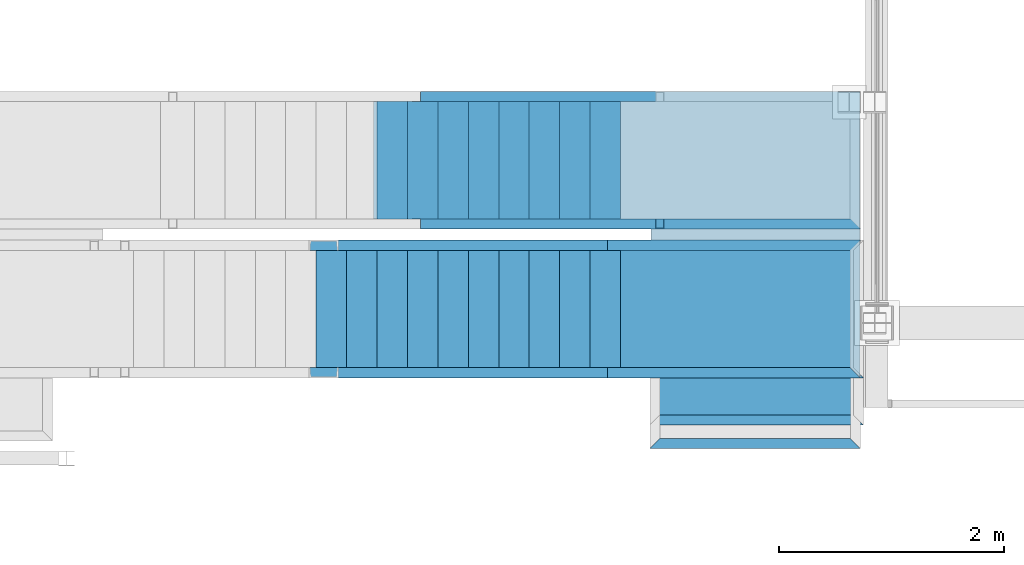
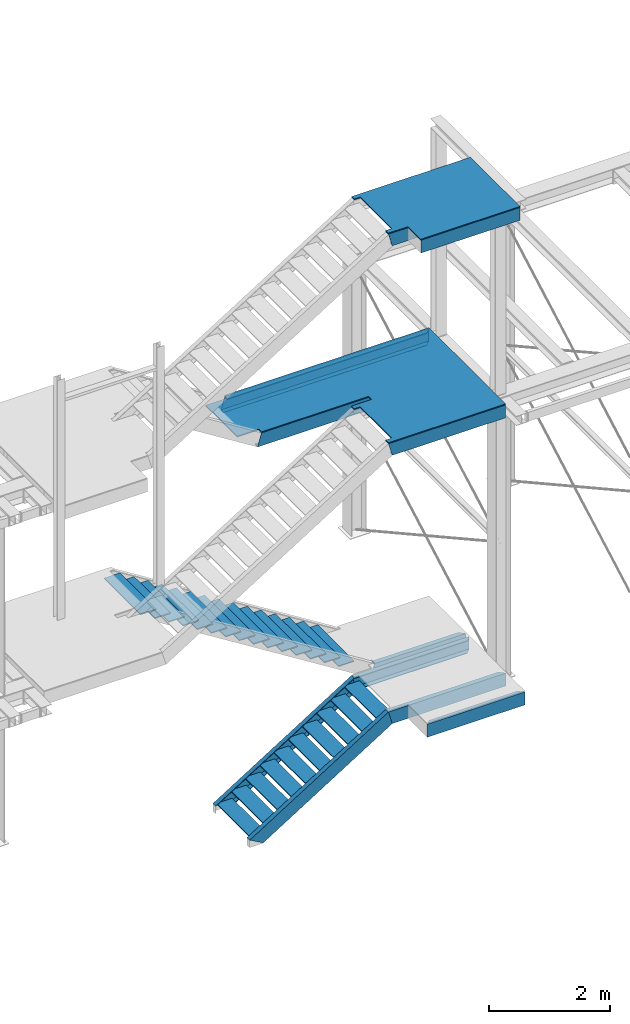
# One storey, part 23 of 24: 15 stairs.
"""IFC2X3 building model written with IfcOpenShell, lengths in metres."""

from ifc_helpers import new_model, entity, si_unit, converted_unit, derived_unit, frame, origin, place, context, subcontext, project, spatial, faceted_brep, material, element, save


model = new_model("IFC2X3")

# Units and contexts
model_context = context("Model", 3, precision=1e-05, world=origin())
body_context = subcontext(model_context, "Body", "Model", "MODEL_VIEW")
ifc_project = project(units=[si_unit("LENGTHUNIT", "METRE"), si_unit("AREAUNIT", "SQUARE_METRE"), si_unit("VOLUMEUNIT", "CUBIC_METRE"), si_unit("MASSUNIT", "GRAM", prefix="KILO"), converted_unit("PLANEANGLEUNIT", "DEGREE", entity("IfcPlaneAngleMeasure", 0.0174532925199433), si_unit("PLANEANGLEUNIT", "RADIAN"), dimensions=[0, 0, 0, 0, 0, 0, 0]), derived_unit("THERMALTRANSMITTANCEUNIT", [(si_unit("POWERUNIT", "WATT"), 1), (si_unit("THERMODYNAMICTEMPERATUREUNIT", "KELVIN"), -1), (si_unit("LENGTHUNIT", "METRE"), -2)]), derived_unit("VOLUMETRICFLOWRATEUNIT", [(si_unit("LENGTHUNIT", "METRE"), 3), (converted_unit("TIMEUNIT", "hour", entity("IfcTimeMeasure", 3600.0), si_unit("TIMEUNIT", "SECOND"), dimensions=[0, 0, 1, 0, 0, 0, 0]), -1), (si_unit("LENGTHUNIT", "METRE"), -1)])], contexts=[model_context])

# Site, building, storey
site_placement = place(None, origin())
site = spatial("IfcSite", under=ifc_project, at=site_placement, Name="TWP_Speiseverteilzentrum SBW VZ II", CompositionType="ELEMENT")
building_placement = place(site_placement, origin())
building = spatial("IfcBuilding", under=site, at=building_placement, Name="Speiseverteilzentrum SBW VZ II", CompositionType="ELEMENT")
storey_placement = place(building_placement, frame((0.0, 0.0, 0.6957)))
storey = spatial("IfcBuildingStorey", under=building, at=storey_placement, Name="EG_Technik_FFB", CompositionType="ELEMENT", Elevation=0.6957)

# Stairs
ifc_material_1 = material(Name="Stahl")
stair_1_placement = place(storey_placement, frame((67.6487049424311, 86.3610000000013, 0.751093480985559)))
element("IfcStair", 1, at=stair_1_placement, inside=storey, material=ifc_material_1, Name="Stahltreppe", ShapeType="NOTDEFINED", context=body_context, shape_type="Brep", body=[
    faceted_brep([(0.0900000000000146, 0.09, 0.0107981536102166), (0.010001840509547, 0.010001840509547, 0.0171998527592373), (0.0100000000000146, 0.01, 0.242798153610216), (0.089998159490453, 0.0899981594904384, 0.249199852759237), (0.0900000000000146, 0.09, 0.26), (0.0, 0.0, 0.26), (0.0, 0.0, 0.0), (0.0900000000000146, 0.09, 0.0), (1.78000000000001, 0.09, 0.0), (1.87, 0.0, 0.0), (1.87, 0.0, 0.26), (1.78000000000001, 0.09, 0.26), (1.78000184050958, 0.0899981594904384, 0.249199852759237), (1.86, 0.01, 0.242798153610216), (1.85999815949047, 0.010001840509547, 0.0171998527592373), (1.78000000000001, 0.09, 0.0107981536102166)], [[[0, 1, 2, 3, 4, 5, 6, 7]], [[8, 9, 10, 11, 12, 13, 14, 15]], [[7, 8, 15, 0]], [[6, 9, 8, 7]], [[5, 10, 9, 6]], [[4, 11, 10, 5]], [[3, 12, 11, 4]], [[2, 13, 12, 3]], [[1, 14, 13, 2]], [[0, 15, 14, 1]]], orient=[[False], [False], [False], [False], [False], [False], [False], [False], [False], [False]]),
])
ifc_material_2 = material(Name="Stahl")
stair_2_placement = place(storey_placement, frame((67.698288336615, 88.3099999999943, 0.751093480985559)))
element("IfcStair", 2, at=stair_2_placement, inside=storey, material=ifc_material_2, Name="Stahltreppe", ShapeType="NOTDEFINED", context=body_context, shape_type="Brep", body=[
    faceted_brep([(1.82041660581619, 0.0, 0.0), (1.82041660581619, 0.0, 0.26), (1.73041660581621, 0.09, 0.26), (1.73041844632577, 0.0899981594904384, 0.249199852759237), (1.81041660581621, 0.01, 0.242798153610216), (1.81041476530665, 0.010001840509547, 0.0171998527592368), (1.73041660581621, 0.09, 0.0107981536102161), (1.73041660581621, 0.09, 0.0), (0.00310374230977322, 0.09, 0.0107981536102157), (0.0, 0.09, 0.0), (0.0, 0.0, 0.0), (0.0747324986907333, 0.0, 0.26), (0.0747324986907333, 0.09, 0.26), (0.0716281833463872, 0.0899981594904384, 0.249199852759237), (0.0697881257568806, 0.01, 0.242798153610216), (0.00494379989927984, 0.010001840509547, 0.0171998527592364)], [[[0, 1, 2, 3, 4, 5, 6, 7]], [[6, 8, 9, 7]], [[7, 9, 10, 0]], [[11, 1, 0, 10]], [[1, 11, 12, 2]], [[2, 12, 13, 3]], [[3, 13, 14, 4]], [[4, 14, 15, 5]], [[5, 15, 8, 6]], [[8, 15, 14, 13, 12, 11, 10, 9]]], orient=[[False], [False], [False], [False], [False], [False], [False], [False], [False], [False]]),
])
ifc_material_3 = material(Name="Stahl")
stair_3_placement = place(storey_placement, frame((67.2743890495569, 86.9899999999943, 0.751093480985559)))
element("IfcStair", 3, at=stair_3_placement, inside=storey, material=ifc_material_3, Name="Stahltreppe", ShapeType="NOTDEFINED", context=body_context, shape_type="Brep", body=[
    faceted_brep([(2.15431405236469, 0.09, 0.0), (2.24431405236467, 0.0, 0.0), (2.24431405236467, 0.0, 0.26), (2.15431405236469, 0.09, 0.26), (2.15431589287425, 0.0899981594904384, 0.249199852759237), (2.23431405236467, 0.0100000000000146, 0.242798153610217), (2.23431221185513, 0.010001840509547, 0.0171998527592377), (2.15431405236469, 0.09, 0.010798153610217), (0.0716287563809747, 0.09, 0.0107981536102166), (0.0747324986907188, 0.09, 0.0), (0.0747324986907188, 0.0, 0.0), (0.0, 0.0, 0.26), (0.0, 0.09, 0.26), (0.00310431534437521, 0.0899981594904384, 0.249199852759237), (0.00494437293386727, 0.01, 0.242798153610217), (0.0697886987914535, 0.010001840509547, 0.0171998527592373)], [[[0, 1, 2, 3, 4, 5, 6, 7]], [[7, 8, 9, 0]], [[0, 9, 10, 1]], [[1, 10, 11, 2]], [[2, 11, 12, 3]], [[3, 12, 13, 4]], [[4, 13, 14, 5]], [[5, 14, 15, 6]], [[6, 15, 8, 7]], [[8, 15, 14, 13, 12, 11, 10, 9]]], orient=[[False], [False], [False], [False], [False], [False], [False], [False], [False], [False]]),
])
ifc_material_4 = material(Name="Stahl")
stair_4_placement = place(storey_placement, frame((67.2743890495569, 88.1199999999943, 0.751093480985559)))
element("IfcStair", 4, at=stair_4_placement, inside=storey, material=ifc_material_4, Name="Stahltreppe", ShapeType="NOTDEFINED", context=body_context, shape_type="Brep", body=[
    faceted_brep([(2.1543177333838, 0.0, 0.26), (2.24431589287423, 0.0899981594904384, 0.26), (2.24431589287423, 0.0899981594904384, 0.0), (2.15431773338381, 0.0, 0.0), (2.15431773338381, 0.0, 0.0107981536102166), (2.23431589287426, 0.079998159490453, 0.0171998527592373), (2.23431773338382, 0.08, 0.242798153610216), (2.15431957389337, 1.84050956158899e-06, 0.249199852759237), (0.0747324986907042, 0.0, 0.0), (0.0716287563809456, 0.0, 0.0107981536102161), (0.0747324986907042, 0.09, 0.0), (0.0, 0.09, 0.26), (0.0, 0.0, 0.26), (0.00310431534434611, 1.84050956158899e-06, 0.249199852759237), (0.00494437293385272, 0.08, 0.242798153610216), (0.069788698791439, 0.079998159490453, 0.0171998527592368)], [[[0, 1, 2, 3, 4, 5, 6, 7]], [[3, 8, 9, 4]], [[2, 10, 8, 3]], [[10, 2, 1, 11]], [[0, 12, 11, 1]], [[7, 13, 12, 0]], [[6, 14, 13, 7]], [[5, 15, 14, 6]], [[4, 9, 15, 5]], [[8, 10, 11, 12, 13, 14, 15, 9]]], orient=[[False], [False], [False], [False], [False], [False], [False], [False], [False], [False]]),
])
ifc_material_5 = material(Name="Stahl")
stair_5_placement = place(storey_placement, frame((64.6252469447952, 86.9899999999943, -0.792860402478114)))
element("IfcStair", 5, at=stair_5_placement, inside=storey, material=ifc_material_5, Name="Stahltreppe", ShapeType="NOTDEFINED", context=body_context, shape_type="Brep", body=[
    faceted_brep([(0.242800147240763, 0.0100018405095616, 0.00951976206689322), (0.0172018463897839, 0.01, 0.134383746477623), (0.0108001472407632, 0.0899981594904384, 0.137926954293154), (0.0, 0.09, 0.143904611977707), (0.0, 0.0, 0.143904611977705), (0.26, 0.0, 0.0), (0.26, 0.09, 0.0), (0.249201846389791, 0.09, 0.00597655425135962), (2.72077086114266, 0.09, 1.55475203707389), (2.71893080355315, 0.010001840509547, 1.5611537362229), (2.65408647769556, 0.01, 1.78675203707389), (2.65224642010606, 0.0899981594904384, 1.79315373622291), (2.64914210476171, 0.09, 1.80395388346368), (2.64914210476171, 0.0, 1.80395388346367), (2.72387460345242, 0.0, 1.54395388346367), (2.72387460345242, 0.09, 1.54395388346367)], [[[0, 1, 2, 3, 4, 5, 6, 7]], [[7, 8, 9, 0]], [[0, 9, 10, 1]], [[1, 10, 11, 2]], [[2, 11, 12, 3]], [[3, 12, 13, 4]], [[4, 13, 14, 5]], [[5, 14, 15, 6]], [[6, 15, 8, 7]], [[15, 14, 13, 12, 11, 10, 9, 8]]], orient=[[False], [False], [False], [False], [False], [False], [False], [False], [False], [False]]),
])
ifc_material_6 = material(Name="Stahl")
stair_6_placement = place(storey_placement, frame((64.6252469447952, 88.1199999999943, -0.792860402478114)))
element("IfcStair", 6, at=stair_6_placement, inside=storey, material=ifc_material_6, Name="Stahltreppe", ShapeType="NOTDEFINED", context=body_context, shape_type="Brep", body=[
    faceted_brep([(0.249201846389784, 0.0, 0.00597655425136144), (0.26, 0.0, 0.0), (0.259999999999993, 0.09, 0.0), (0.0, 0.09, 0.143904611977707), (0.0, 0.0, 0.143904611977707), (0.0108001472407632, 1.84050956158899e-06, 0.137926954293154), (0.0172018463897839, 0.08, 0.134383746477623), (0.242800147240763, 0.079998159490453, 0.00951976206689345), (2.71893080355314, 0.079998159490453, 1.56115373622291), (2.72077086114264, 0.0, 1.55475203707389), (2.65408647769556, 0.08, 1.78675203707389), (2.65224642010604, 1.84050956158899e-06, 1.79315373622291), (2.6491421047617, 0.0, 1.80395388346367), (2.6491421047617, 0.09, 1.80395388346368), (2.72387460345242, 0.09, 1.54395388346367), (2.72387460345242, 0.0, 1.54395388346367)], [[[0, 1, 2, 3, 4, 5, 6, 7]], [[7, 8, 9, 0]], [[6, 10, 8, 7]], [[5, 11, 10, 6]], [[4, 12, 11, 5]], [[3, 13, 12, 4]], [[2, 14, 13, 3]], [[1, 15, 14, 2]], [[0, 9, 15, 1]], [[9, 8, 10, 11, 12, 13, 14, 15]]], orient=[[False], [False], [False], [False], [False], [False], [False], [False], [False], [False]]),
])
ifc_material_7 = material(Name="Stahl")
stair_7_placement = place(storey_placement, frame((65.5382883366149, 88.3099999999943, 6.16523328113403)))
element("IfcStair", 7, at=stair_7_placement, inside=storey, material=ifc_material_7, Name="Stahltreppe", ShapeType="NOTDEFINED", context=body_context, shape_type="Brep", body=[
    faceted_brep([(3.97541485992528, 0.0, 0.0), (3.97541485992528, 0.0, 0.26), (3.88541485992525, 0.09, 0.26), (3.88541670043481, 0.0899981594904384, 0.249199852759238), (3.96541485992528, 0.01, 0.242798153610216), (3.96541301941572, 0.010001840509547, 0.0171998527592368), (3.88541485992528, 0.09, 0.0107981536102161), (3.88541485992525, 0.09, 0.0), (0.00310374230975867, 0.09, 0.0107981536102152), (0.0, 0.09, 0.0), (0.0, 0.0, 0.0), (0.0747324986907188, 0.0, 0.26), (0.0747324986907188, 0.09, 0.26), (0.0716281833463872, 0.0899981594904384, 0.249199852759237), (0.0697881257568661, 0.01, 0.242798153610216), (0.00494379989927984, 0.010001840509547, 0.0171998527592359)], [[[0, 1, 2, 3, 4, 5, 6, 7]], [[6, 8, 9, 7]], [[7, 9, 10, 0]], [[11, 1, 0, 10]], [[1, 11, 12, 2]], [[2, 12, 13, 3]], [[3, 13, 14, 4]], [[4, 14, 15, 5]], [[5, 15, 8, 6]], [[8, 15, 14, 13, 12, 11, 10, 9]]], orient=[[False], [False], [False], [False], [False], [False], [False], [False], [False], [False]]),
])
ifc_material_8 = material(Name="Stahl")
stair_8_placement = place(storey_placement, frame((65.5382883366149, 89.4399999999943, 6.16523328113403)))
element("IfcStair", 8, at=stair_8_placement, inside=storey, material=ifc_material_8, Name="Stahltreppe", ShapeType="NOTDEFINED", context=body_context, shape_type="Brep", body=[
    faceted_brep([(3.88541485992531, 0.0, 0.0), (3.88541485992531, 0.0, 0.0107981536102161), (3.96541301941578, 0.079998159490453, 0.0171998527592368), (3.96541485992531, 0.08, 0.242798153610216), (3.88541670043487, 1.84050956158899e-06, 0.249199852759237), (3.88541485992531, 0.0, 0.26), (3.97541485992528, 0.09, 0.26), (3.97541485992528, 0.09, 0.0), (0.0, 0.0, 0.0), (0.00310374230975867, 0.0, 0.0107981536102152), (0.0, 0.09, 0.0), (0.0747324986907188, 0.09, 0.26), (0.0747324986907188, 0.0, 0.26), (0.0716281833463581, 1.84050956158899e-06, 0.249199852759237), (0.0697881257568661, 0.08, 0.242798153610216), (0.00494379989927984, 0.079998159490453, 0.0171998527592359)], [[[0, 1, 2, 3, 4, 5, 6, 7]], [[0, 8, 9, 1]], [[7, 10, 8, 0]], [[10, 7, 6, 11]], [[5, 12, 11, 6]], [[4, 13, 12, 5]], [[3, 14, 13, 4]], [[2, 15, 14, 3]], [[1, 9, 15, 2]], [[8, 10, 11, 12, 13, 14, 15, 9]]], orient=[[False], [False], [False], [False], [False], [False], [False], [False], [False], [False]]),
])
ifc_material_9 = material(Name="Stahl")
stair_9_placement = place(storey_placement, frame((67.2743890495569, 86.9899999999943, 6.16523328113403)))
element("IfcStair", 9, at=stair_9_placement, inside=storey, material=ifc_material_9, Name="Stahltreppe", ShapeType="NOTDEFINED", context=body_context, shape_type="Brep", body=[
    faceted_brep([(2.23931414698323, 0.0, 0.0), (2.23931414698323, 0.0, 0.26), (2.1493141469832, 0.09, 0.26), (2.14931598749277, 0.0899981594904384, 0.249199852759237), (2.22931414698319, 0.0100000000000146, 0.242798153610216), (2.22931230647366, 0.010001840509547, 0.0171998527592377), (2.1493141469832, 0.09, 0.010798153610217), (2.1493141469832, 0.09, 0.0), (0.071628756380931, 0.09, 0.0107981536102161), (0.0747324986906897, 0.09, 0.0), (0.0747324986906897, 0.0, 0.0), (0.0, 0.0, 0.26), (0.0, 0.09, 0.26), (0.00310431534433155, 0.0899981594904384, 0.249199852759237), (0.00494437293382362, 0.01, 0.242798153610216), (0.0697886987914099, 0.010001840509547, 0.0171998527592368)], [[[0, 1, 2, 3, 4, 5, 6, 7]], [[6, 8, 9, 7]], [[7, 9, 10, 0]], [[11, 1, 0, 10]], [[1, 11, 12, 2]], [[2, 12, 13, 3]], [[3, 13, 14, 4]], [[4, 14, 15, 5]], [[5, 15, 8, 6]], [[8, 15, 14, 13, 12, 11, 10, 9]]], orient=[[False], [False], [False], [False], [False], [False], [False], [False], [False], [False]]),
])
ifc_material_10 = material(Name="Stahl")
stair_10_placement = place(storey_placement, frame((67.6487049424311, 86.5699999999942, 10.39503)))
element("IfcStair", 10, at=stair_10_placement, inside=storey, material=ifc_material_10, Name="Stahltreppe", ShapeType="NOTDEFINED", context=body_context, shape_type="Brep", body=[
    faceted_brep([(1.80499825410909, 0.09, 0.26), (1.80500009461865, 0.0899981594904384, 0.249199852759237), (1.88499825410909, 0.01, 0.242798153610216), (1.88499641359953, 0.0100018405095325, 0.0171998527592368), (1.80499825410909, 0.09, 0.0107981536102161), (1.80499825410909, 0.09, 0.0), (1.89499825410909, 0.0, 0.0), (1.89499825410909, 0.0, 0.26), (0.0100018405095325, 0.010001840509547, 0.0171998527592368), (0.09, 0.09, 0.0107981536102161), (0.0099999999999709, 0.01, 0.242798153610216), (0.0899981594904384, 0.0899981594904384, 0.249199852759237), (0.09, 0.09, 0.26), (0.0, 0.0, 0.26), (0.0, 0.0, 0.0), (0.09, 0.09, 0.0)], [[[0, 1, 2, 3, 4, 5, 6, 7]], [[3, 8, 9, 4]], [[2, 10, 8, 3]], [[1, 11, 10, 2]], [[0, 12, 11, 1]], [[7, 13, 12, 0]], [[13, 7, 6, 14]], [[5, 15, 14, 6]], [[4, 9, 15, 5]], [[9, 8, 10, 11, 12, 13, 14, 15]]], orient=[[False], [False], [False], [False], [False], [False], [False], [False], [False], [False]]),
])
ifc_material_11 = material(Name="Stahl")
stair_11_placement = place(storey_placement, frame((67.2743890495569, 86.9899999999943, 10.39503)))
element("IfcStair", 11, at=stair_11_placement, inside=storey, material=ifc_material_11, Name="Stahltreppe", ShapeType="NOTDEFINED", context=body_context, shape_type="Brep", body=[
    faceted_brep([(2.26931414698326, 0.0, 0.0), (2.26931414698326, 0.0, 0.26), (2.17931414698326, 0.09, 0.26), (2.17931598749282, 0.0899981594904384, 0.249199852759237), (2.25931414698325, 0.01, 0.242798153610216), (2.25931230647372, 0.010001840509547, 0.0171998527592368), (2.17931414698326, 0.09, 0.0107981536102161), (2.17931414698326, 0.09, 0.0), (0.0716287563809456, 0.09, 0.0107981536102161), (0.0747324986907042, 0.09, 0.0), (0.0747324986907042, 0.0, 0.0), (0.0, 0.0, 0.26), (0.0, 0.09, 0.26), (0.00310431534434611, 0.0899981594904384, 0.249199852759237), (0.00494437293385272, 0.01, 0.242798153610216), (0.0697886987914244, 0.010001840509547, 0.0171998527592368)], [[[0, 1, 2, 3, 4, 5, 6, 7]], [[6, 8, 9, 7]], [[7, 9, 10, 0]], [[11, 1, 0, 10]], [[1, 11, 12, 2]], [[2, 12, 13, 3]], [[3, 13, 14, 4]], [[4, 14, 15, 5]], [[5, 15, 8, 6]], [[8, 15, 14, 13, 12, 11, 10, 9]]], orient=[[False], [False], [False], [False], [False], [False], [False], [False], [False], [False]]),
])
ifc_material_12 = material(Name="Stahl")
stair_12_placement = place(storey_placement, frame((64.6887049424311, 86.9999999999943, -0.680825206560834)))
element("IfcStair", 12, at=stair_12_placement, inside=storey, material=ifc_material_12, Name="Stahltreppe", ShapeType="NOTDEFINED", context=body_context, shape_type="Brep", body=[
    faceted_brep([(2.73000000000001, 1.2, 1.52272681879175), (2.73000000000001, 0.0, 1.52272681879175), (2.73000000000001, 0.0, 1.54272681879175), (2.73000000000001, 1.2, 1.54272681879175), (2.43000000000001, 0.0, 1.52272681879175), (2.43000000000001, 0.0, 1.54272681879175), (2.43000000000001, 1.2, 1.52272681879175), (2.43000000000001, 1.2, 1.54272681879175)], [[[0, 1, 2, 3]], [[1, 4, 5, 2]], [[4, 6, 7, 5]], [[6, 0, 3, 7]], [[3, 2, 5, 7]], [[0, 6, 4, 1]]], orient=[[False], [False], [False], [False], [False], [False]]),
    faceted_brep([(2.46000000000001, 1.2, 1.35353495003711), (2.46000000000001, 0.0, 1.35353495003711), (2.46000000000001, 0.0, 1.37353495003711), (2.46000000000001, 1.2, 1.37353495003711), (2.16000000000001, 0.0, 1.35353495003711), (2.16000000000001, 0.0, 1.37353495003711), (2.16000000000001, 1.2, 1.35353495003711), (2.16000000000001, 1.2, 1.37353495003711)], [[[0, 1, 2, 3]], [[1, 4, 5, 2]], [[4, 6, 7, 5]], [[6, 0, 3, 7]], [[3, 2, 5, 7]], [[0, 6, 4, 1]]], orient=[[False], [False], [False], [False], [False], [False]]),
    faceted_brep([(2.19000000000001, 1.2, 1.18434308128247), (2.19000000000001, 0.0, 1.18434308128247), (2.19000000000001, 0.0, 1.20434308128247), (2.19000000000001, 1.2, 1.20434308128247), (1.89000000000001, 0.0, 1.18434308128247), (1.89000000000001, 0.0, 1.20434308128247), (1.89000000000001, 1.2, 1.18434308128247), (1.89000000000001, 1.2, 1.20434308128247)], [[[0, 1, 2, 3]], [[1, 4, 5, 2]], [[4, 6, 7, 5]], [[6, 0, 3, 7]], [[3, 2, 5, 7]], [[0, 6, 4, 1]]], orient=[[False], [False], [False], [False], [False], [False]]),
    faceted_brep([(1.91999999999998, 1.2, 1.01515121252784), (1.91999999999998, 0.0, 1.01515121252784), (1.91999999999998, 0.0, 1.03515121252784), (1.91999999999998, 1.2, 1.03515121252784), (1.61999999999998, 0.0, 1.01515121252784), (1.61999999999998, 0.0, 1.03515121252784), (1.61999999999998, 1.2, 1.01515121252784), (1.61999999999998, 1.2, 1.03515121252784)], [[[0, 1, 2, 3]], [[1, 4, 5, 2]], [[4, 6, 7, 5]], [[6, 0, 3, 7]], [[3, 2, 5, 7]], [[0, 6, 4, 1]]], orient=[[False], [False], [False], [False], [False], [False]]),
    faceted_brep([(1.65000000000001, 1.2, 0.845959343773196), (1.65000000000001, 0.0, 0.845959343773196), (1.65000000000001, 0.0, 0.865959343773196), (1.65000000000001, 1.2, 0.865959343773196), (1.35000000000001, 0.0, 0.845959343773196), (1.35000000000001, 0.0, 0.865959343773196), (1.35000000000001, 1.2, 0.845959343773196), (1.35000000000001, 1.2, 0.865959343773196)], [[[0, 1, 2, 3]], [[1, 4, 5, 2]], [[4, 6, 7, 5]], [[6, 0, 3, 7]], [[3, 2, 5, 7]], [[0, 6, 4, 1]]], orient=[[False], [False], [False], [False], [False], [False]]),
    faceted_brep([(1.38000000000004, 1.2, 0.676767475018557), (1.38000000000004, 0.0, 0.676767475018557), (1.38000000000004, 0.0, 0.696767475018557), (1.38000000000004, 1.2, 0.696767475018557), (1.08000000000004, 0.0, 0.676767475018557), (1.08000000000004, 0.0, 0.696767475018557), (1.08000000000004, 1.2, 0.676767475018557), (1.08000000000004, 1.2, 0.696767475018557)], [[[0, 1, 2, 3]], [[1, 4, 5, 2]], [[4, 6, 7, 5]], [[6, 0, 3, 7]], [[3, 2, 5, 7]], [[0, 6, 4, 1]]], orient=[[False], [False], [False], [False], [False], [False]]),
    faceted_brep([(1.10999999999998, 1.20000000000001, 0.507575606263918), (1.10999999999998, 0.0, 0.507575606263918), (1.10999999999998, 0.0, 0.527575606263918), (1.10999999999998, 1.20000000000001, 0.527575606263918), (0.809999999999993, 0.0, 0.507575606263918), (0.809999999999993, 0.0, 0.527575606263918), (0.809999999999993, 1.20000000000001, 0.507575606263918), (0.809999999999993, 1.20000000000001, 0.527575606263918)], [[[0, 1, 2, 3]], [[1, 4, 5, 2]], [[4, 6, 7, 5]], [[6, 0, 3, 7]], [[3, 2, 5, 7]], [[0, 6, 4, 1]]], orient=[[False], [False], [False], [False], [False], [False]]),
    faceted_brep([(0.84, 1.20000000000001, 0.338383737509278), (0.84, 0.0, 0.338383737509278), (0.84, 0.0, 0.358383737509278), (0.84, 1.20000000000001, 0.358383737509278), (0.539999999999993, 0.0, 0.338383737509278), (0.539999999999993, 0.0, 0.358383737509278), (0.539999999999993, 1.20000000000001, 0.338383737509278), (0.539999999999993, 1.20000000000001, 0.358383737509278)], [[[0, 1, 2, 3]], [[1, 4, 5, 2]], [[4, 6, 7, 5]], [[6, 0, 3, 7]], [[3, 2, 5, 7]], [[0, 6, 4, 1]]], orient=[[False], [False], [False], [False], [False], [False]]),
    faceted_brep([(0.570000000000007, 1.20000000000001, 0.169191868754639), (0.570000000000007, 0.0, 0.169191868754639), (0.570000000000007, 0.0, 0.189191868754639), (0.570000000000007, 1.20000000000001, 0.189191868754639), (0.270000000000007, 0.0, 0.169191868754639), (0.270000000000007, 0.0, 0.189191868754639), (0.270000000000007, 1.20000000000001, 0.169191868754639), (0.270000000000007, 1.20000000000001, 0.189191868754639)], [[[0, 1, 2, 3]], [[1, 4, 5, 2]], [[4, 6, 7, 5]], [[6, 0, 3, 7]], [[3, 2, 5, 7]], [[0, 6, 4, 1]]], orient=[[False], [False], [False], [False], [False], [False]]),
    faceted_brep([(0.299999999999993, 1.20000000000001, 0.0), (0.299999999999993, 0.0, 0.0), (0.299999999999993, 0.0, 0.0199999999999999), (0.299999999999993, 1.20000000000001, 0.0199999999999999), (0.0, 0.0, 0.0), (0.0, 0.0, 0.0199999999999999), (0.0, 1.20000000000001, 0.0), (0.0, 1.20000000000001, 0.0199999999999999)], [[[0, 1, 2, 3]], [[1, 4, 5, 2]], [[4, 6, 7, 5]], [[6, 0, 3, 7]], [[3, 2, 5, 7]], [[0, 6, 4, 1]]], orient=[[False], [False], [False], [False], [False], [False]]),
])
ifc_material_13 = material(Name="Stahl")
stair_13_placement = place(storey_placement, frame((63.3087049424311, 88.3199999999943, 1.1802853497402)))
element("IfcStair", 13, at=stair_13_placement, inside=storey, material=ifc_material_13, Name="Stahltreppe", ShapeType="NOTDEFINED", context=body_context, shape_type="Brep", body=[
    faceted_brep([(0.0, 0.0, 2.36868616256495), (0.0, 1.20000000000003, 2.36868616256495), (0.0, 1.20000000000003, 2.38868616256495), (0.0, 0.0, 2.38868616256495), (0.3, 1.20000000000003, 2.36868616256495), (0.3, 1.20000000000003, 2.38868616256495), (0.3, 0.0, 2.36868616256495), (0.3, 0.0, 2.38868616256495)], [[[0, 1, 2, 3]], [[1, 4, 5, 2]], [[4, 6, 7, 5]], [[6, 0, 3, 7]], [[3, 2, 5, 7]], [[0, 6, 4, 1]]], orient=[[False], [False], [False], [False], [False], [False]]),
    faceted_brep([(0.270000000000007, 0.0, 2.19949429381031), (0.270000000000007, 1.20000000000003, 2.19949429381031), (0.270000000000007, 1.20000000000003, 2.21949429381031), (0.270000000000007, 0.0, 2.21949429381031), (0.570000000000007, 1.20000000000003, 2.19949429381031), (0.570000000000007, 1.20000000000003, 2.21949429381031), (0.570000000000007, 0.0, 2.19949429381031), (0.570000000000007, 0.0, 2.21949429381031)], [[[0, 1, 2, 3]], [[1, 4, 5, 2]], [[4, 6, 7, 5]], [[6, 0, 3, 7]], [[3, 2, 5, 7]], [[0, 6, 4, 1]]], orient=[[False], [False], [False], [False], [False], [False]]),
    faceted_brep([(0.540000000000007, 0.0, 2.03030242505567), (0.540000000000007, 1.20000000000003, 2.03030242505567), (0.540000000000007, 1.20000000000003, 2.05030242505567), (0.540000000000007, 0.0, 2.05030242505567), (0.840000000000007, 1.20000000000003, 2.03030242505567), (0.840000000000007, 1.20000000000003, 2.05030242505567), (0.840000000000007, 0.0, 2.03030242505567), (0.840000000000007, 0.0, 2.05030242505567)], [[[0, 1, 2, 3]], [[1, 4, 5, 2]], [[4, 6, 7, 5]], [[6, 0, 3, 7]], [[3, 2, 5, 7]], [[0, 6, 4, 1]]], orient=[[False], [False], [False], [False], [False], [False]]),
    faceted_brep([(0.81, 0.0, 1.86111055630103), (0.81, 1.20000000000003, 1.86111055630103), (0.81, 1.20000000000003, 1.88111055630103), (0.81, 0.0, 1.88111055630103), (1.11, 1.20000000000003, 1.86111055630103), (1.11, 1.20000000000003, 1.88111055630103), (1.11, 0.0, 1.86111055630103), (1.11, 0.0, 1.88111055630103)], [[[0, 1, 2, 3]], [[1, 4, 5, 2]], [[4, 6, 7, 5]], [[6, 0, 3, 7]], [[3, 2, 5, 7]], [[0, 6, 4, 1]]], orient=[[False], [False], [False], [False], [False], [False]]),
    faceted_brep([(1.08000000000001, 0.0, 1.69191868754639), (1.08000000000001, 1.20000000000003, 1.69191868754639), (1.08000000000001, 1.20000000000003, 1.71191868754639), (1.08000000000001, 0.0, 1.71191868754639), (1.38000000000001, 1.20000000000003, 1.69191868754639), (1.38000000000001, 1.20000000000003, 1.71191868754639), (1.38000000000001, 0.0, 1.69191868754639), (1.38000000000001, 0.0, 1.71191868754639)], [[[0, 1, 2, 3]], [[1, 4, 5, 2]], [[4, 6, 7, 5]], [[6, 0, 3, 7]], [[3, 2, 5, 7]], [[0, 6, 4, 1]]], orient=[[False], [False], [False], [False], [False], [False]]),
    faceted_brep([(1.35, 0.0, 1.52272681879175), (1.35, 1.20000000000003, 1.52272681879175), (1.35, 1.20000000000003, 1.54272681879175), (1.35, 0.0, 1.54272681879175), (1.65, 1.20000000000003, 1.52272681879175), (1.65, 1.20000000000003, 1.54272681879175), (1.65, 0.0, 1.52272681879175), (1.65, 0.0, 1.54272681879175)], [[[0, 1, 2, 3]], [[1, 4, 5, 2]], [[4, 6, 7, 5]], [[6, 0, 3, 7]], [[3, 2, 5, 7]], [[0, 6, 4, 1]]], orient=[[False], [False], [False], [False], [False], [False]]),
    faceted_brep([(1.62, 0.0, 1.35353495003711), (1.62, 1.20000000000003, 1.35353495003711), (1.62, 1.20000000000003, 1.37353495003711), (1.62, 0.0, 1.37353495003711), (1.92, 1.20000000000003, 1.35353495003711), (1.92, 1.20000000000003, 1.37353495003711), (1.92, 0.0, 1.35353495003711), (1.92, 0.0, 1.37353495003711)], [[[0, 1, 2, 3]], [[1, 4, 5, 2]], [[4, 6, 7, 5]], [[6, 0, 3, 7]], [[3, 2, 5, 7]], [[0, 6, 4, 1]]], orient=[[False], [False], [False], [False], [False], [False]]),
    faceted_brep([(1.88999999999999, 0.0, 1.18434308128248), (1.88999999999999, 1.20000000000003, 1.18434308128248), (1.88999999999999, 1.20000000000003, 1.20434308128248), (1.88999999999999, 0.0, 1.20434308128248), (2.18999999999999, 1.20000000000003, 1.18434308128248), (2.18999999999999, 1.20000000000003, 1.20434308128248), (2.18999999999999, 0.0, 1.18434308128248), (2.18999999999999, 0.0, 1.20434308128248)], [[[0, 1, 2, 3]], [[1, 4, 5, 2]], [[4, 6, 7, 5]], [[6, 0, 3, 7]], [[3, 2, 5, 7]], [[0, 6, 4, 1]]], orient=[[False], [False], [False], [False], [False], [False]]),
    faceted_brep([(2.15999999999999, 0.0, 1.01515121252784), (2.15999999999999, 1.20000000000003, 1.01515121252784), (2.15999999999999, 1.20000000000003, 1.03515121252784), (2.15999999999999, 0.0, 1.03515121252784), (2.45999999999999, 1.20000000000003, 1.01515121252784), (2.45999999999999, 1.20000000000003, 1.03515121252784), (2.45999999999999, 0.0, 1.01515121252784), (2.45999999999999, 0.0, 1.03515121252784)], [[[0, 1, 2, 3]], [[1, 4, 5, 2]], [[4, 6, 7, 5]], [[6, 0, 3, 7]], [[3, 2, 5, 7]], [[0, 6, 4, 1]]], orient=[[False], [False], [False], [False], [False], [False]]),
    faceted_brep([(2.42999999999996, 0.0, 0.845959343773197), (2.42999999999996, 1.2, 0.845959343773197), (2.42999999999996, 1.2, 0.865959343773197), (2.42999999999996, 0.0, 0.865959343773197), (2.72999999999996, 1.2, 0.845959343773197), (2.72999999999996, 1.2, 0.865959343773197), (2.72999999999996, 0.0, 0.845959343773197), (2.72999999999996, 0.0, 0.865959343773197)], [[[0, 1, 2, 3]], [[1, 4, 5, 2]], [[4, 6, 7, 5]], [[6, 0, 3, 7]], [[3, 2, 5, 7]], [[0, 6, 4, 1]]], orient=[[False], [False], [False], [False], [False], [False]]),
    faceted_brep([(2.70000000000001, 0.0, 0.676767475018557), (2.70000000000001, 1.2, 0.676767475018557), (2.70000000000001, 1.2, 0.696767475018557), (2.70000000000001, 0.0, 0.696767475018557), (3.00000000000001, 1.2, 0.676767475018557), (3.00000000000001, 1.2, 0.696767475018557), (3.00000000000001, 0.0, 0.676767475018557), (3.00000000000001, 0.0, 0.696767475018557)], [[[0, 1, 2, 3]], [[1, 4, 5, 2]], [[4, 6, 7, 5]], [[6, 0, 3, 7]], [[3, 2, 5, 7]], [[0, 6, 4, 1]]], orient=[[False], [False], [False], [False], [False], [False]]),
    faceted_brep([(2.96999999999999, 0.0, 0.507575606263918), (2.96999999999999, 1.2, 0.507575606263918), (2.96999999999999, 1.2, 0.527575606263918), (2.96999999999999, 0.0, 0.527575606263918), (3.26999999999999, 1.2, 0.507575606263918), (3.26999999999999, 1.2, 0.527575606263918), (3.26999999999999, 0.0, 0.507575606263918), (3.26999999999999, 0.0, 0.527575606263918)], [[[0, 1, 2, 3]], [[1, 4, 5, 2]], [[4, 6, 7, 5]], [[6, 0, 3, 7]], [[3, 2, 5, 7]], [[0, 6, 4, 1]]], orient=[[False], [False], [False], [False], [False], [False]]),
    faceted_brep([(3.24000000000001, 0.0, 0.338383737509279), (3.24000000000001, 1.2, 0.338383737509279), (3.24000000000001, 1.2, 0.358383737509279), (3.24000000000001, 0.0, 0.358383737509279), (3.54000000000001, 1.2, 0.338383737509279), (3.54000000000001, 1.2, 0.358383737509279), (3.54000000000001, 0.0, 0.338383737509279), (3.54000000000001, 0.0, 0.358383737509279)], [[[0, 1, 2, 3]], [[1, 4, 5, 2]], [[4, 6, 7, 5]], [[6, 0, 3, 7]], [[3, 2, 5, 7]], [[0, 6, 4, 1]]], orient=[[False], [False], [False], [False], [False], [False]]),
    faceted_brep([(3.51000000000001, 0.0, 0.16919186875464), (3.51000000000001, 1.2, 0.16919186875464), (3.51000000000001, 1.2, 0.18919186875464), (3.51000000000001, 0.0, 0.18919186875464), (3.81000000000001, 1.2, 0.16919186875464), (3.81000000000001, 1.2, 0.18919186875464), (3.81000000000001, 0.0, 0.16919186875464), (3.81000000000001, 0.0, 0.18919186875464)], [[[0, 1, 2, 3]], [[1, 4, 5, 2]], [[4, 6, 7, 5]], [[6, 0, 3, 7]], [[3, 2, 5, 7]], [[0, 6, 4, 1]]], orient=[[False], [False], [False], [False], [False], [False]]),
    faceted_brep([(3.77999999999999, 0.0, 0.0), (3.77999999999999, 1.2, 0.0), (3.77999999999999, 1.2, 0.0200000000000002), (3.77999999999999, 0.0, 0.0200000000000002), (4.07999999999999, 1.2, 0.0), (4.07999999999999, 1.2, 0.0200000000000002), (4.07999999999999, 0.0, 0.0), (4.07999999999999, 0.0, 0.0200000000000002)], [[[0, 1, 2, 3]], [[1, 4, 5, 2]], [[4, 6, 7, 5]], [[6, 0, 3, 7]], [[3, 2, 5, 7]], [[0, 6, 4, 1]]], orient=[[False], [False], [False], [False], [False], [False]]),
])
ifc_material_14 = material(Name="Stahl")
stair_14_placement = place(storey_placement, frame((65.1987049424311, 86.9899999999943, 6.42523328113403)))
element("IfcStair", 14, at=stair_14_placement, inside=storey, material=ifc_material_14, Name="Stahltreppe", ShapeType="NOTDEFINED", context=body_context, shape_type="Brep", body=[
    faceted_brep([(4.31499825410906, 2.54000000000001, 0.0), (0.414315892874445, 2.54000000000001, 0.0), (0.414315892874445, 2.45000000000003, 0.0), (0.0, 2.45000000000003, 0.0), (0.0, 1.41000000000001, 0.0), (0.414315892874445, 1.41000000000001, 0.0), (0.414315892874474, 1.32000000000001, 0.0), (2.46000000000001, 1.32000000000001, 0.0), (2.46000000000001, 1.22000000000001, 0.0), (2.07568410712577, 1.22000000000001, 0.0), (2.07568410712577, 1.13000000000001, 0.0), (2.19000000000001, 1.13000000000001, 0.0), (2.19000000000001, 0.09, 0.0), (2.0756841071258, 0.09, 0.0), (2.0756841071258, 0.0, 0.0), (4.31499825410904, 0.0, 0.0), (0.414315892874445, 2.54000000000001, 0.02), (4.31499825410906, 2.54000000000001, 0.02), (4.31499825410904, 0.0, 0.02), (2.0756841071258, 0.0, 0.02), (2.0756841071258, 0.09, 0.02), (2.19000000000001, 0.09, 0.02), (2.19000000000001, 1.13000000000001, 0.02), (2.07568410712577, 1.13000000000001, 0.02), (2.07568410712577, 1.22000000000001, 0.02), (2.46000000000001, 1.22000000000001, 0.02), (2.46000000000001, 1.32000000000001, 0.02), (0.414315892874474, 1.32000000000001, 0.02), (0.414315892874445, 1.41000000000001, 0.02), (0.0, 1.41000000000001, 0.02), (0.0, 2.45000000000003, 0.02), (0.414315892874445, 2.45000000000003, 0.02)], [[[0, 1, 2, 3, 4, 5, 6, 7, 8, 9, 10, 11, 12, 13, 14, 15]], [[16, 17, 18, 19, 20, 21, 22, 23, 24, 25, 26, 27, 28, 29, 30, 31]], [[1, 0, 17, 16]], [[2, 1, 16, 31]], [[3, 2, 31, 30]], [[4, 3, 30, 29]], [[5, 4, 29, 28]], [[6, 5, 28, 27]], [[7, 6, 27, 26]], [[8, 7, 26, 25]], [[9, 8, 25, 24]], [[10, 9, 24, 23]], [[11, 10, 23, 22]], [[12, 11, 22, 21]], [[13, 12, 21, 20]], [[14, 13, 20, 19]], [[15, 14, 19, 18]], [[0, 15, 18, 17]]], orient=[[False], [False], [False], [False], [False], [False], [False], [False], [False], [False], [False], [False], [False], [False], [False], [False], [False], [False]]),
])
ifc_material_15 = material(Name="Stahl")
stair_15_placement = place(storey_placement, frame((67.274389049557, 86.5699999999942, 10.65503)))
element("IfcStair", 15, at=stair_15_placement, inside=storey, material=ifc_material_15, Name="Stahltreppe", ShapeType="NOTDEFINED", context=body_context, shape_type="Brep", body=[
    faceted_brep([(0.0, 0.510000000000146, 0.0), (0.0, 0.420000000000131, 0.0), (0.374315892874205, 0.420000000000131, 0.0), (0.374315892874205, 0.0, 0.0), (2.26931414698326, 0.0, 0.0), (2.26931414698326, 1.64000000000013, 0.0), (0.0, 1.64000000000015, 0.0), (0.0, 1.55000184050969, 0.0), (0.114315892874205, 1.55000184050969, 0.0), (0.114315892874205, 0.510000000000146, 0.0), (0.0, 0.420000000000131, 0.02), (0.0, 0.510000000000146, 0.02), (0.114315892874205, 0.510000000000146, 0.02), (0.114315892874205, 1.55000184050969, 0.02), (0.0, 1.55000184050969, 0.02), (0.0, 1.64000000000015, 0.02), (2.26931414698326, 1.64000000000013, 0.02), (2.26931414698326, 0.0, 0.02), (0.374315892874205, 0.0, 0.02), (0.374315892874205, 0.420000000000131, 0.02)], [[[0, 1, 2, 3, 4, 5, 6, 7, 8, 9]], [[10, 11, 12, 13, 14, 15, 16, 17, 18, 19]], [[1, 0, 11, 10]], [[2, 1, 10, 19]], [[3, 2, 19, 18]], [[4, 3, 18, 17]], [[5, 4, 17, 16]], [[6, 5, 16, 15]], [[7, 6, 15, 14]], [[8, 7, 14, 13]], [[9, 8, 13, 12]], [[0, 9, 12, 11]]], orient=[[False], [False], [False], [False], [False], [False], [False], [False], [False], [False], [False], [False]]),
])

save(model, "model.ifc")
